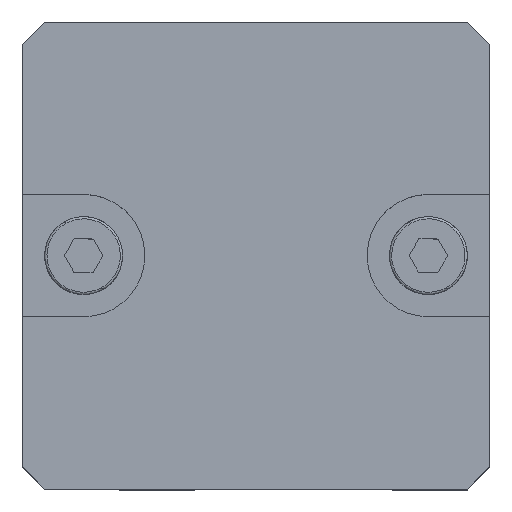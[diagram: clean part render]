
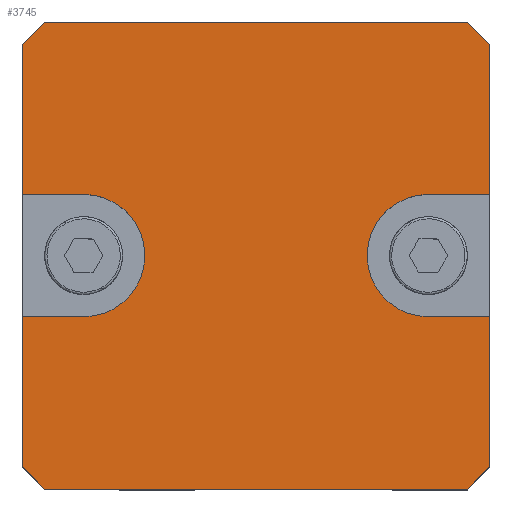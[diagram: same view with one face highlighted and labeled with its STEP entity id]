
A CAD part, top view. The second image highlights one B-rep face of the part: STEP entity #3745.
In plain terms, the highlighted planar face has unit normal (0, 0, 1).
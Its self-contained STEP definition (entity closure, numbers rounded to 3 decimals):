
#68 = CARTESIAN_POINT ( 'NONE',  ( 47.247, 23.372, 36.105 ) ) ;
#203 = EDGE_CURVE ( 'NONE', #5432, #2595, #15772, .T. ) ;
#572 = ORIENTED_EDGE ( 'NONE', *, *, #22890, .T. ) ;
#885 = EDGE_CURVE ( 'NONE', #5617, #16854, #9838, .T. ) ;
#917 = VECTOR ( 'NONE', #2500, 1000. ) ;
#944 = DIRECTION ( 'NONE',  ( -0.707, 0.707, 0. ) ) ;
#1334 = DIRECTION ( 'NONE',  ( 1., 0., 0. ) ) ;
#1400 = CARTESIAN_POINT ( 'NONE',  ( 52.747, 17.872, 36.105 ) ) ;
#1828 = VECTOR ( 'NONE', #944, 1000. ) ;
#1989 = CARTESIAN_POINT ( 'NONE',  ( 10.747, 23.372, 36.105 ) ) ;
#2500 = DIRECTION ( 'NONE',  ( 0.707, -0.707, 0. ) ) ;
#2595 = VERTEX_POINT ( 'NONE', #12867 ) ;
#2944 = DIRECTION ( 'NONE',  ( 0., -1., 0. ) ) ;
#3265 = DIRECTION ( 'NONE',  ( 1., 0., 0. ) ) ;
#3361 = ORIENTED_EDGE ( 'NONE', *, *, #7713, .T. ) ;
#3476 = DIRECTION ( 'NONE',  ( -1., 0., 0. ) ) ;
#3529 = ORIENTED_EDGE ( 'NONE', *, *, #9976, .T. ) ;
#3745 = ADVANCED_FACE ( 'NONE', ( #17693 ), #8606, .T. ) ;
#3851 = EDGE_CURVE ( 'NONE', #9093, #5617, #23754, .T. ) ;
#4186 = AXIS2_PLACEMENT_3D ( 'NONE', #16160, #4806, #18002 ) ;
#4381 = VECTOR ( 'NONE', #3265, 1000. ) ;
#4447 = ORIENTED_EDGE ( 'NONE', *, *, #7397, .T. ) ;
#4492 = EDGE_CURVE ( 'NONE', #10885, #15170, #20330, .T. ) ;
#4707 = CARTESIAN_POINT ( 'NONE',  ( 47.247, 17.872, 36.105 ) ) ;
#4806 = DIRECTION ( 'NONE',  ( 0., 0., 1. ) ) ;
#4845 = LINE ( 'NONE', #16512, #9357 ) ;
#4922 = EDGE_LOOP ( 'NONE', ( #15008, #8816, #8189, #20168, #3361, #12369, #9377, #572, #14888, #9868, #3529, #12550, #11946, #15164, #4447, #12238 ) ) ;
#5341 = VECTOR ( 'NONE', #19618, 1000. ) ;
#5432 = VERTEX_POINT ( 'NONE', #14462 ) ;
#5617 = VERTEX_POINT ( 'NONE', #15228 ) ;
#5711 = CARTESIAN_POINT ( 'NONE',  ( 52.747, 36.872, 36.105 ) ) ;
#6622 = CARTESIAN_POINT ( 'NONE',  ( 12.747, 38.872, 36.105 ) ) ;
#6658 = DIRECTION ( 'NONE',  ( 0., -1., 0. ) ) ;
#6776 = VERTEX_POINT ( 'NONE', #24412 ) ;
#6990 = LINE ( 'NONE', #23562, #1828 ) ;
#7261 = CARTESIAN_POINT ( 'NONE',  ( 31.747, 12.372, 36.105 ) ) ;
#7397 = EDGE_CURVE ( 'NONE', #2595, #17642, #4845, .T. ) ;
#7448 = CIRCLE ( 'NONE', #24198, 5.5 ) ;
#7616 = CARTESIAN_POINT ( 'NONE',  ( 16.247, 23.372, 36.105 ) ) ;
#7713 = EDGE_CURVE ( 'NONE', #12080, #9093, #21868, .T. ) ;
#7852 = DIRECTION ( 'NONE',  ( 0.707, 0.707, 0. ) ) ;
#8189 = ORIENTED_EDGE ( 'NONE', *, *, #8205, .T. ) ;
#8200 = VECTOR ( 'NONE', #1334, 1000. ) ;
#8205 = EDGE_CURVE ( 'NONE', #6776, #15384, #12277, .T. ) ;
#8370 = EDGE_CURVE ( 'NONE', #5432, #16836, #7448, .T. ) ;
#8606 = PLANE ( 'NONE',  #4186 ) ;
#8816 = ORIENTED_EDGE ( 'NONE', *, *, #9505, .T. ) ;
#9093 = VERTEX_POINT ( 'NONE', #68 ) ;
#9302 = DIRECTION ( 'NONE',  ( 0., 1., 0. ) ) ;
#9357 = VECTOR ( 'NONE', #24027, 1000. ) ;
#9377 = ORIENTED_EDGE ( 'NONE', *, *, #885, .T. ) ;
#9391 = CARTESIAN_POINT ( 'NONE',  ( 10.747, -1.128, 36.105 ) ) ;
#9505 = EDGE_CURVE ( 'NONE', #22373, #6776, #10315, .T. ) ;
#9838 = LINE ( 'NONE', #1400, #19719 ) ;
#9868 = ORIENTED_EDGE ( 'NONE', *, *, #4492, .T. ) ;
#9976 = EDGE_CURVE ( 'NONE', #15170, #18860, #18657, .T. ) ;
#10126 = DIRECTION ( 'NONE',  ( 0., 0., 1. ) ) ;
#10315 = LINE ( 'NONE', #17228, #15301 ) ;
#10885 = VERTEX_POINT ( 'NONE', #16585 ) ;
#10942 = CARTESIAN_POINT ( 'NONE',  ( 47.247, 12.372, 36.105 ) ) ;
#11243 = CARTESIAN_POINT ( 'NONE',  ( 13.497, 23.372, 36.105 ) ) ;
#11482 = CARTESIAN_POINT ( 'NONE',  ( 31.747, 38.872, 36.105 ) ) ;
#11526 = VERTEX_POINT ( 'NONE', #19480 ) ;
#11946 = ORIENTED_EDGE ( 'NONE', *, *, #8370, .F. ) ;
#12080 = VERTEX_POINT ( 'NONE', #10942 ) ;
#12134 = VECTOR ( 'NONE', #3476, 1000. ) ;
#12238 = ORIENTED_EDGE ( 'NONE', *, *, #22709, .T. ) ;
#12277 = LINE ( 'NONE', #20451, #16640 ) ;
#12369 = ORIENTED_EDGE ( 'NONE', *, *, #3851, .T. ) ;
#12550 = ORIENTED_EDGE ( 'NONE', *, *, #19610, .T. ) ;
#12644 = VECTOR ( 'NONE', #20711, 1000. ) ;
#12854 = EDGE_CURVE ( 'NONE', #18878, #22373, #22491, .T. ) ;
#12867 = CARTESIAN_POINT ( 'NONE',  ( 10.747, 12.372, 36.105 ) ) ;
#12876 = CARTESIAN_POINT ( 'NONE',  ( 31.747, -3.128, 36.105 ) ) ;
#13822 = VECTOR ( 'NONE', #2944, 1000. ) ;
#13998 = CARTESIAN_POINT ( 'NONE',  ( 10.747, -1.128, 36.105 ) ) ;
#14446 = EDGE_CURVE ( 'NONE', #15384, #12080, #23717, .T. ) ;
#14462 = CARTESIAN_POINT ( 'NONE',  ( 16.247, 12.372, 36.105 ) ) ;
#14888 = ORIENTED_EDGE ( 'NONE', *, *, #23344, .T. ) ;
#15008 = ORIENTED_EDGE ( 'NONE', *, *, #12854, .T. ) ;
#15164 = ORIENTED_EDGE ( 'NONE', *, *, #203, .T. ) ;
#15170 = VERTEX_POINT ( 'NONE', #19767 ) ;
#15228 = CARTESIAN_POINT ( 'NONE',  ( 52.747, 23.372, 36.105 ) ) ;
#15301 = VECTOR ( 'NONE', #7852, 1000. ) ;
#15384 = VERTEX_POINT ( 'NONE', #23752 ) ;
#15772 = LINE ( 'NONE', #22471, #20660 ) ;
#16160 = CARTESIAN_POINT ( 'NONE',  ( 10.747, -3.128, 36.105 ) ) ;
#16245 = CARTESIAN_POINT ( 'NONE',  ( 10.747, 17.872, 36.105 ) ) ;
#16512 = CARTESIAN_POINT ( 'NONE',  ( 10.747, 17.872, 36.105 ) ) ;
#16557 = CARTESIAN_POINT ( 'NONE',  ( 31.747, 23.372, 36.105 ) ) ;
#16585 = CARTESIAN_POINT ( 'NONE',  ( 12.747, 38.872, 36.105 ) ) ;
#16640 = VECTOR ( 'NONE', #9302, 1000. ) ;
#16836 = VERTEX_POINT ( 'NONE', #7616 ) ;
#16854 = VERTEX_POINT ( 'NONE', #5711 ) ;
#16882 = CARTESIAN_POINT ( 'NONE',  ( 50.747, -3.128, 36.105 ) ) ;
#16964 = DIRECTION ( 'NONE',  ( 0., 1., 0. ) ) ;
#17228 = CARTESIAN_POINT ( 'NONE',  ( 50.747, -3.128, 36.105 ) ) ;
#17566 = LINE ( 'NONE', #11482, #12644 ) ;
#17642 = VERTEX_POINT ( 'NONE', #9391 ) ;
#17693 = FACE_OUTER_BOUND ( 'NONE', #4922, .T. ) ;
#17915 = DIRECTION ( 'NONE',  ( 0., 0., -1. ) ) ;
#18002 = DIRECTION ( 'NONE',  ( 1., 0., 0. ) ) ;
#18339 = VECTOR ( 'NONE', #20481, 1000. ) ;
#18657 = LINE ( 'NONE', #16245, #13822 ) ;
#18860 = VERTEX_POINT ( 'NONE', #1989 ) ;
#18878 = VERTEX_POINT ( 'NONE', #20823 ) ;
#18915 = LINE ( 'NONE', #11243, #18339 ) ;
#19480 = CARTESIAN_POINT ( 'NONE',  ( 50.747, 38.872, 36.105 ) ) ;
#19610 = EDGE_CURVE ( 'NONE', #18860, #16836, #18915, .T. ) ;
#19618 = DIRECTION ( 'NONE',  ( -0.707, -0.707, 0. ) ) ;
#19719 = VECTOR ( 'NONE', #16964, 1000. ) ;
#19767 = CARTESIAN_POINT ( 'NONE',  ( 10.747, 36.872, 36.105 ) ) ;
#20168 = ORIENTED_EDGE ( 'NONE', *, *, #14446, .T. ) ;
#20292 = DIRECTION ( 'NONE',  ( -1., 0., 0. ) ) ;
#20330 = LINE ( 'NONE', #6622, #5341 ) ;
#20451 = CARTESIAN_POINT ( 'NONE',  ( 52.747, 17.872, 36.105 ) ) ;
#20481 = DIRECTION ( 'NONE',  ( 1., 0., 0. ) ) ;
#20660 = VECTOR ( 'NONE', #20292, 1000. ) ;
#20711 = DIRECTION ( 'NONE',  ( -1., 0., 0. ) ) ;
#20823 = CARTESIAN_POINT ( 'NONE',  ( 12.747, -3.128, 36.105 ) ) ;
#21033 = LINE ( 'NONE', #13998, #917 ) ;
#21243 = CARTESIAN_POINT ( 'NONE',  ( 16.247, 17.872, 36.105 ) ) ;
#21868 = CIRCLE ( 'NONE', #22041, 5.5 ) ;
#22041 = AXIS2_PLACEMENT_3D ( 'NONE', #4707, #17915, #6658 ) ;
#22373 = VERTEX_POINT ( 'NONE', #16882 ) ;
#22471 = CARTESIAN_POINT ( 'NONE',  ( 31.747, 12.372, 36.105 ) ) ;
#22491 = LINE ( 'NONE', #12876, #8200 ) ;
#22709 = EDGE_CURVE ( 'NONE', #17642, #18878, #21033, .T. ) ;
#22890 = EDGE_CURVE ( 'NONE', #16854, #11526, #6990, .T. ) ;
#23103 = DIRECTION ( 'NONE',  ( 0., -1., 0. ) ) ;
#23344 = EDGE_CURVE ( 'NONE', #11526, #10885, #17566, .T. ) ;
#23562 = CARTESIAN_POINT ( 'NONE',  ( 52.747, 36.872, 36.105 ) ) ;
#23717 = LINE ( 'NONE', #7261, #12134 ) ;
#23752 = CARTESIAN_POINT ( 'NONE',  ( 52.747, 12.372, 36.105 ) ) ;
#23754 = LINE ( 'NONE', #16557, #4381 ) ;
#24027 = DIRECTION ( 'NONE',  ( 0., -1., 0. ) ) ;
#24198 = AXIS2_PLACEMENT_3D ( 'NONE', #21243, #10126, #23103 ) ;
#24412 = CARTESIAN_POINT ( 'NONE',  ( 52.747, -1.128, 36.105 ) ) ;
